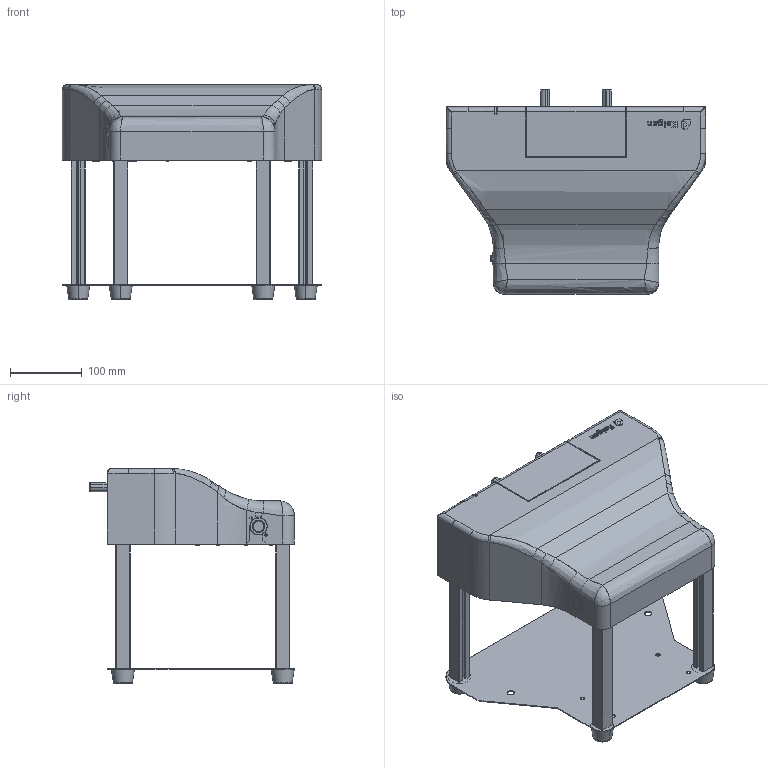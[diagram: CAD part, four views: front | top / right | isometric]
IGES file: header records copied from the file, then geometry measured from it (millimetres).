
Start section: SolidWorks IGES file using analytic representation for surfaces
Bounding box: 360 x 284 x 299.4 mm (x, y, z)
Surface area: 623237.3 mm2 (no closed solid volume)
Topology: 0 solids, 0 shells, 1062 faces, 9848 edges, 9842 vertices
Faces by surface type: bspline 746, revolution 316
